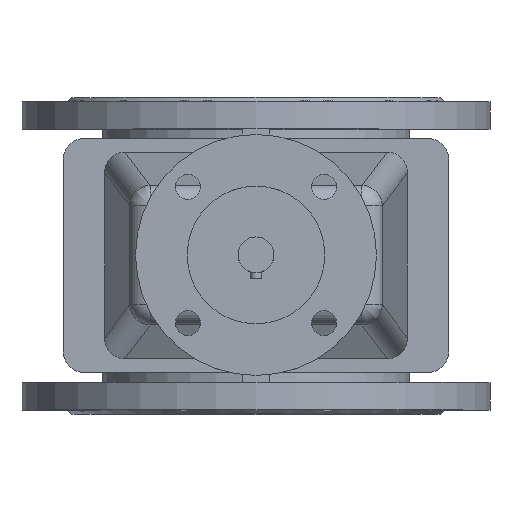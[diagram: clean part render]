
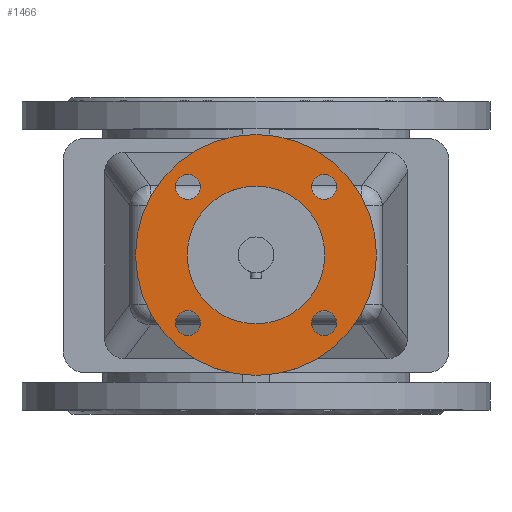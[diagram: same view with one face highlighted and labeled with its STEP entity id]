
A CAD part, top view. The second image highlights one B-rep face of the part: STEP entity #1466.
In plain terms, the highlighted planar face has unit normal (0, 0, 1).
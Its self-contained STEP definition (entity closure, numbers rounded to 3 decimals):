
#1466=ADVANCED_FACE('',(#3245,#3247,#3249,#3251,#3253,#3255),#3257,.T.);
#3245=FACE_BOUND('',#3246,.T.);
#3246=EDGE_LOOP('',(#4228));
#3247=FACE_BOUND('',#3248,.T.);
#3248=EDGE_LOOP('',(#4229));
#3249=FACE_BOUND('',#3250,.T.);
#3250=EDGE_LOOP('',(#4230));
#3251=FACE_BOUND('',#3252,.T.);
#3252=EDGE_LOOP('',(#4231));
#3253=FACE_BOUND('',#3254,.T.);
#3254=EDGE_LOOP('',(#4232));
#3255=FACE_BOUND('',#3256,.T.);
#3256=EDGE_LOOP('',(#4233));
#3257=PLANE('',#3258);
#3258=AXIS2_PLACEMENT_3D('',#3259,#3260,#3261);
#3259=CARTESIAN_POINT('',(0.,0.,435.));
#3260=DIRECTION('',(0.,0.,1.));
#3261=DIRECTION('',(-1.,0.,0.));
#4228=ORIENTED_EDGE('',*,*,#4710,.F.);
#4229=ORIENTED_EDGE('',*,*,#4711,.T.);
#4230=ORIENTED_EDGE('',*,*,#4712,.T.);
#4231=ORIENTED_EDGE('',*,*,#4713,.T.);
#4232=ORIENTED_EDGE('',*,*,#4715,.T.);
#4233=ORIENTED_EDGE('',*,*,#4714,.T.);
#4710=EDGE_CURVE('',#5468,#5468,#5469,.T.);
#4711=EDGE_CURVE('',#5470,#5470,#5471,.F.);
#4712=EDGE_CURVE('',#5472,#5472,#5473,.F.);
#4713=EDGE_CURVE('',#5474,#5474,#5475,.F.);
#4714=EDGE_CURVE('',#5476,#5476,#5477,.F.);
#4715=EDGE_CURVE('',#5478,#5478,#5479,.T.);
#5468=VERTEX_POINT('',#9102);
#5469=CIRCLE('',#9103,87.5);
#5470=VERTEX_POINT('',#9107);
#5471=CIRCLE('',#9108,9.);
#5472=VERTEX_POINT('',#9112);
#5473=CIRCLE('',#9113,9.);
#5474=VERTEX_POINT('',#9117);
#5475=CIRCLE('',#9118,9.);
#5476=VERTEX_POINT('',#9122);
#5477=CIRCLE('',#9123,9.);
#5478=VERTEX_POINT('',#9127);
#5479=CIRCLE('',#9128,50.);
#9102=CARTESIAN_POINT('',(-87.5,0.,435.));
#9103=AXIS2_PLACEMENT_3D('',#9104,#9105,#9106);
#9104=CARTESIAN_POINT('',(0.,0.,435.));
#9105=DIRECTION('',(0.,0.,-1.));
#9106=DIRECTION('',(-1.,0.,0.));
#9107=CARTESIAN_POINT('',(-49.497,-40.497,435.));
#9108=AXIS2_PLACEMENT_3D('',#9109,#9110,#9111);
#9109=CARTESIAN_POINT('',(-49.497,-49.497,435.));
#9110=DIRECTION('',(0.,0.,1.));
#9111=DIRECTION('',(0.,1.,0.));
#9112=CARTESIAN_POINT('',(-40.497,49.497,435.));
#9113=AXIS2_PLACEMENT_3D('',#9114,#9115,#9116);
#9114=CARTESIAN_POINT('',(-49.497,49.497,435.));
#9115=DIRECTION('',(0.,0.,1.));
#9116=DIRECTION('',(1.,0.,0.));
#9117=CARTESIAN_POINT('',(49.497,40.497,435.));
#9118=AXIS2_PLACEMENT_3D('',#9119,#9120,#9121);
#9119=CARTESIAN_POINT('',(49.497,49.497,435.));
#9120=DIRECTION('',(0.,0.,1.));
#9121=DIRECTION('',(0.,-1.,0.));
#9122=CARTESIAN_POINT('',(40.497,-49.497,435.));
#9123=AXIS2_PLACEMENT_3D('',#9124,#9125,#9126);
#9124=CARTESIAN_POINT('',(49.497,-49.497,435.));
#9125=DIRECTION('',(0.,0.,1.));
#9126=DIRECTION('',(-1.,0.,0.));
#9127=CARTESIAN_POINT('',(-50.,0.,435.));
#9128=AXIS2_PLACEMENT_3D('',#9129,#9130,#9131);
#9129=CARTESIAN_POINT('',(0.,0.,435.));
#9130=DIRECTION('',(0.,0.,-1.));
#9131=DIRECTION('',(-1.,0.,0.));
